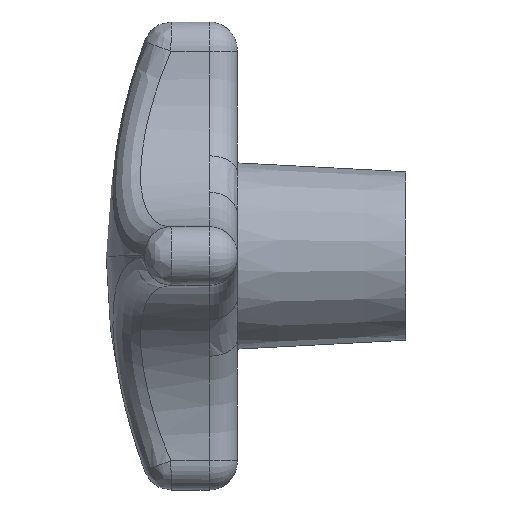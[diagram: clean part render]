
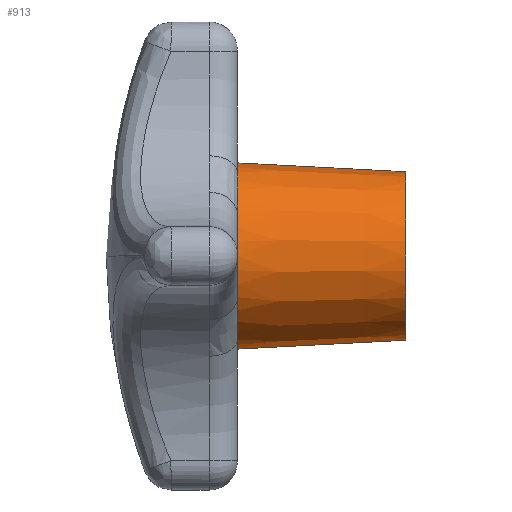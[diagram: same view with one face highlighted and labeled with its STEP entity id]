
A CAD part, left-side view. The second image highlights one B-rep face of the part: STEP entity #913.
In plain terms, the highlighted conical face has half-angle 3 degrees and reference radius 9 mm.
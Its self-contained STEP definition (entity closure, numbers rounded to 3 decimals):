
#126 = VERTEX_POINT ( 'NONE', #1513 ) ;
#709 = VERTEX_POINT ( 'NONE', #2222 ) ;
#711 = EDGE_CURVE ( 'NONE', #719, #717, #2215, .T. ) ;
#717 = VERTEX_POINT ( 'NONE', #2202 ) ;
#719 = VERTEX_POINT ( 'NONE', #2265 ) ;
#720 = EDGE_CURVE ( 'NONE', #7192, #126, #2264, .T. ) ;
#873 = EDGE_CURVE ( 'NONE', #709, #126, #2383, .T. ) ;
#903 = ORIENTED_EDGE ( 'NONE', *, *, #7182, .F. ) ;
#911 = EDGE_LOOP ( 'NONE', ( #956, #928, #926, #927, #921, #923, #924, #903 ) ) ;
#913 = ADVANCED_FACE ( 'NONE', ( #2452 ), #2451, .T. ) ;
#919 = EDGE_CURVE ( 'NONE', #7183, #954, #2493, .T. ) ;
#921 = ORIENTED_EDGE ( 'NONE', *, *, #922, .F. ) ;
#922 = EDGE_CURVE ( 'NONE', #935, #7192, #2484, .T. ) ;
#923 = ORIENTED_EDGE ( 'NONE', *, *, #934, .F. ) ;
#924 = ORIENTED_EDGE ( 'NONE', *, *, #919, .F. ) ;
#926 = ORIENTED_EDGE ( 'NONE', *, *, #873, .T. ) ;
#927 = ORIENTED_EDGE ( 'NONE', *, *, #720, .F. ) ;
#928 = ORIENTED_EDGE ( 'NONE', *, *, #929, .T. ) ;
#929 = EDGE_CURVE ( 'NONE', #719, #709, #2479, .T. ) ;
#934 = EDGE_CURVE ( 'NONE', #954, #935, #2510, .T. ) ;
#935 = VERTEX_POINT ( 'NONE', #2505 ) ;
#954 = VERTEX_POINT ( 'NONE', #2619 ) ;
#956 = ORIENTED_EDGE ( 'NONE', *, *, #711, .F. ) ;
#1513 = CARTESIAN_POINT ( 'NONE',  ( 0., 0., 9.943 ) ) ;
#2202 = CARTESIAN_POINT ( 'NONE',  ( 0., 0., -9.943 ) ) ;
#2212 = DIRECTION ( 'NONE',  ( 0., 0.999, -0.052 ) ) ;
#2213 = VECTOR ( 'NONE', #2212, 1000. ) ;
#2214 = CARTESIAN_POINT ( 'NONE',  ( 0., -18., -9. ) ) ;
#2215 = LINE ( 'NONE', #2214, #2213 ) ;
#2222 = CARTESIAN_POINT ( 'NONE',  ( 0., -18., 9. ) ) ;
#2260 = DIRECTION ( 'NONE',  ( 0., 0., 1. ) ) ;
#2261 = DIRECTION ( 'NONE',  ( 0., 1., 0. ) ) ;
#2262 = CARTESIAN_POINT ( 'NONE',  ( 0., 0., 0. ) ) ;
#2263 = AXIS2_PLACEMENT_3D ( 'NONE', #2262, #2261, #2260 ) ;
#2264 = CIRCLE ( 'NONE', #2263, 9.943 ) ;
#2265 = CARTESIAN_POINT ( 'NONE',  ( 0., -18., -9. ) ) ;
#2380 = DIRECTION ( 'NONE',  ( 0., 0.999, 0.052 ) ) ;
#2381 = VECTOR ( 'NONE', #2380, 1000. ) ;
#2382 = CARTESIAN_POINT ( 'NONE',  ( 0., -18., 9. ) ) ;
#2383 = LINE ( 'NONE', #2382, #2381 ) ;
#2445 = DIRECTION ( 'NONE',  ( 0., 0., 1. ) ) ;
#2446 = DIRECTION ( 'NONE',  ( 0., 1., 0. ) ) ;
#2447 = AXIS2_PLACEMENT_3D ( 'NONE', #2450, #2446, #2445 ) ;
#2450 = CARTESIAN_POINT ( 'NONE',  ( 0., -18., 0. ) ) ;
#2451 = CONICAL_SURFACE ( 'NONE', #2447, 9., 0.052 ) ;
#2452 = FACE_OUTER_BOUND ( 'NONE', #911, .T. ) ;
#2475 = DIRECTION ( 'NONE',  ( 0., 0., 1. ) ) ;
#2476 = DIRECTION ( 'NONE',  ( 0., 1., 0. ) ) ;
#2477 = CARTESIAN_POINT ( 'NONE',  ( 0., -18., 0. ) ) ;
#2478 = AXIS2_PLACEMENT_3D ( 'NONE', #2477, #2476, #2475 ) ;
#2479 = CIRCLE ( 'NONE', #2478, 9. ) ;
#2480 = DIRECTION ( 'NONE',  ( 0., 0., 1. ) ) ;
#2481 = DIRECTION ( 'NONE',  ( 0., 1., 0. ) ) ;
#2482 = CARTESIAN_POINT ( 'NONE',  ( 0., 0., 0. ) ) ;
#2483 = AXIS2_PLACEMENT_3D ( 'NONE', #2482, #2481, #2480 ) ;
#2484 = CIRCLE ( 'NONE', #2483, 9.943 ) ;
#2490 = DIRECTION ( 'NONE',  ( 0., 0., 1. ) ) ;
#2491 = DIRECTION ( 'NONE',  ( 0., 1., 0. ) ) ;
#2492 = AXIS2_PLACEMENT_3D ( 'NONE', #2497, #2491, #2490 ) ;
#2493 = CIRCLE ( 'NONE', #2492, 9.943 ) ;
#2497 = CARTESIAN_POINT ( 'NONE',  ( 0., 0., 0. ) ) ;
#2505 = CARTESIAN_POINT ( 'NONE',  ( -8.912, 0., 4.41 ) ) ;
#2506 = DIRECTION ( 'NONE',  ( 0., 0., 1. ) ) ;
#2507 = DIRECTION ( 'NONE',  ( 0., 1., 0. ) ) ;
#2508 = CARTESIAN_POINT ( 'NONE',  ( 0., 0., 0. ) ) ;
#2509 = AXIS2_PLACEMENT_3D ( 'NONE', #2508, #2507, #2506 ) ;
#2510 = CIRCLE ( 'NONE', #2509, 9.943 ) ;
#2619 = CARTESIAN_POINT ( 'NONE',  ( -8.912, 0., -4.41 ) ) ;
#6187 = DIRECTION ( 'NONE',  ( 0., 1., 0. ) ) ;
#6188 = CARTESIAN_POINT ( 'NONE',  ( 0., 0., 0. ) ) ;
#6189 = AXIS2_PLACEMENT_3D ( 'NONE', #6188, #6187, #6249 ) ;
#6190 = CIRCLE ( 'NONE', #6189, 9.943 ) ;
#6225 = CARTESIAN_POINT ( 'NONE',  ( -4.41, 0., 8.912 ) ) ;
#6248 = CARTESIAN_POINT ( 'NONE',  ( -4.41, 0., -8.912 ) ) ;
#6249 = DIRECTION ( 'NONE',  ( 0., 0., 1. ) ) ;
#7182 = EDGE_CURVE ( 'NONE', #717, #7183, #6190, .T. ) ;
#7183 = VERTEX_POINT ( 'NONE', #6248 ) ;
#7192 = VERTEX_POINT ( 'NONE', #6225 ) ;
